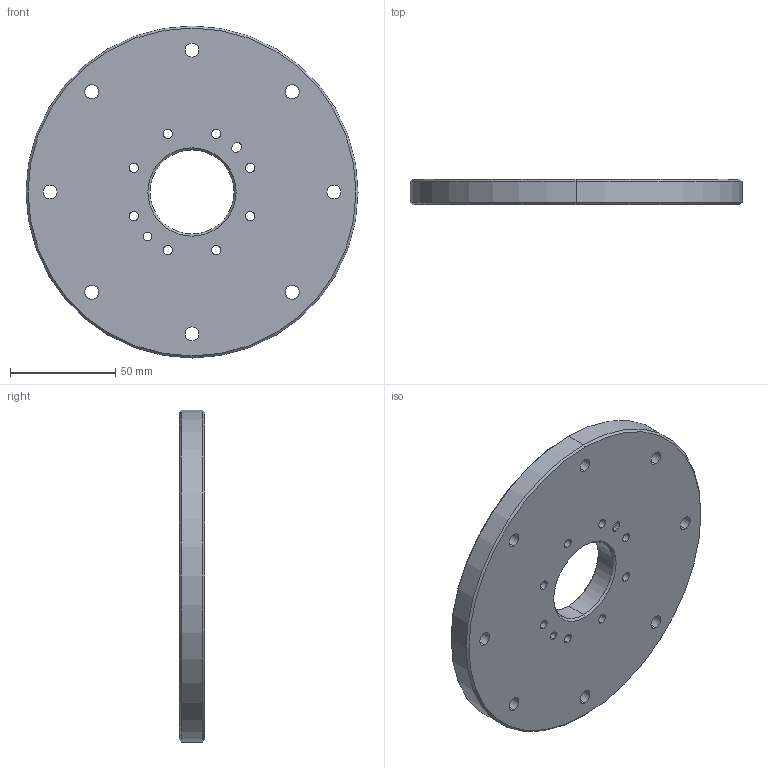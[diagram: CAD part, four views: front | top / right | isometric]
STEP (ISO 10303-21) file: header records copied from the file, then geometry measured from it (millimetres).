
FILE_DESCRIPTION (( 'STEP AP214' ), '1' );
FILE_NAME ('円盤プレート.STEP', '2025-10-22T07:15:41', ( '' ), ( '' ), 'SwSTEP 2.0', 'SolidWorks 2023', '' );
FILE_SCHEMA (( 'AUTOMOTIVE_DESIGN' ));
Length unit declared in the file: millimetre
Products named in the file (1): 円盤プレート
Bounding box: 158 x 12 x 158 mm (x, y, z)
Volume: 206972.2 mm3; surface area: 47448 mm2
Topology: 1 solids, 1 shells, 109 faces, 257 edges, 158 vertices
Faces by surface type: cylinder 57, cone 24, torus 16, plane 12
Entity records: 3357 total; most frequent: DIRECTION 647, CARTESIAN_POINT 525, ORIENTED_EDGE 514, AXIS2_PLACEMENT_3D 280, EDGE_CURVE 257, CIRCLE 170, VERTEX_POINT 158, EDGE_LOOP 155
